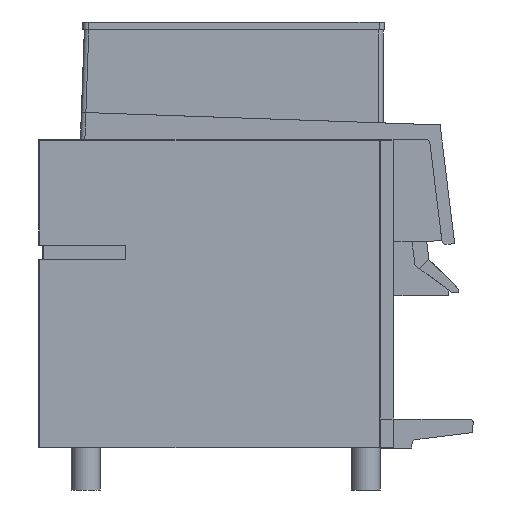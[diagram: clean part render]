
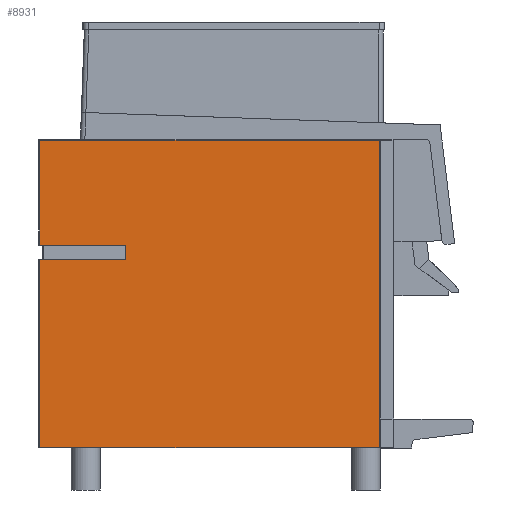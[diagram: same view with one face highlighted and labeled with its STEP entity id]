
A CAD part, left-side view. The second image highlights one B-rep face of the part: STEP entity #8931.
In plain terms, the highlighted planar face has unit normal (-1, 0, 0).
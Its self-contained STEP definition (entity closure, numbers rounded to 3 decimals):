
#467=LINE('',#11977,#1205);
#721=LINE('',#12623,#1459);
#722=LINE('',#12625,#1460);
#723=LINE('',#12627,#1461);
#724=LINE('',#12629,#1462);
#725=LINE('',#12631,#1463);
#726=LINE('',#12633,#1464);
#727=LINE('',#12635,#1465);
#728=LINE('',#12637,#1466);
#729=LINE('',#12639,#1467);
#1205=VECTOR('',#10018,1000.);
#1459=VECTOR('',#10544,1000.);
#1460=VECTOR('',#10545,1000.);
#1461=VECTOR('',#10546,1000.);
#1462=VECTOR('',#10547,1000.);
#1463=VECTOR('',#10548,1000.);
#1464=VECTOR('',#10549,1000.);
#1465=VECTOR('',#10550,1000.);
#1466=VECTOR('',#10551,1000.);
#1467=VECTOR('',#10552,1000.);
#2402=ORIENTED_EDGE('',*,*,#3882,.F.);
#2403=ORIENTED_EDGE('',*,*,#4212,.T.);
#2404=ORIENTED_EDGE('',*,*,#4213,.T.);
#2405=ORIENTED_EDGE('',*,*,#4214,.T.);
#2406=ORIENTED_EDGE('',*,*,#4215,.F.);
#2407=ORIENTED_EDGE('',*,*,#4216,.F.);
#2408=ORIENTED_EDGE('',*,*,#4217,.F.);
#2409=ORIENTED_EDGE('',*,*,#4218,.T.);
#2410=ORIENTED_EDGE('',*,*,#4219,.T.);
#2411=ORIENTED_EDGE('',*,*,#4220,.T.);
#3882=EDGE_CURVE('',#4818,#4819,#467,.T.);
#4212=EDGE_CURVE('',#4818,#5075,#721,.T.);
#4213=EDGE_CURVE('',#5075,#5076,#722,.F.);
#4214=EDGE_CURVE('',#5076,#5077,#723,.F.);
#4215=EDGE_CURVE('',#5078,#5077,#724,.T.);
#4216=EDGE_CURVE('',#5079,#5078,#725,.T.);
#4217=EDGE_CURVE('',#5080,#5079,#726,.T.);
#4218=EDGE_CURVE('',#5080,#5081,#727,.T.);
#4219=EDGE_CURVE('',#5081,#5082,#728,.T.);
#4220=EDGE_CURVE('',#5082,#4819,#729,.F.);
#4818=VERTEX_POINT('',#11976);
#4819=VERTEX_POINT('',#11978);
#5075=VERTEX_POINT('',#12624);
#5076=VERTEX_POINT('',#12626);
#5077=VERTEX_POINT('',#12628);
#5078=VERTEX_POINT('',#12630);
#5079=VERTEX_POINT('',#12632);
#5080=VERTEX_POINT('',#12634);
#5081=VERTEX_POINT('',#12636);
#5082=VERTEX_POINT('',#12638);
#5419=EDGE_LOOP('',(#2402,#2403,#2404,#2405,#2406,#2407,#2408,#2409,#2410,
#2411));
#5807=FACE_BOUND('',#5419,.T.);
#6167=PLANE('',#9409);
#8931=ADVANCED_FACE('',(#5807),#6167,.F.);
#9409=AXIS2_PLACEMENT_3D('',#12622,#10542,#10543);
#10018=DIRECTION('',(0.,1.,0.));
#10542=DIRECTION('',(1.,0.,0.));
#10543=DIRECTION('',(0.,1.,0.));
#10544=DIRECTION('',(0.,0.,1.));
#10545=DIRECTION('',(0.,-1.,0.));
#10546=DIRECTION('',(0.,0.,1.));
#10547=DIRECTION('',(0.,1.,0.));
#10548=DIRECTION('',(0.,1.,0.));
#10549=DIRECTION('',(0.,0.,1.));
#10550=DIRECTION('',(0.,1.,0.));
#10551=DIRECTION('',(0.,1.,0.));
#10552=DIRECTION('',(0.,0.,1.));
#11976=CARTESIAN_POINT('',(-284.,-470.,0.));
#11977=CARTESIAN_POINT('',(-284.,-490.,0.));
#11978=CARTESIAN_POINT('',(-284.,-1.2,0.));
#12622=CARTESIAN_POINT('',(-284.,0.,0.));
#12623=CARTESIAN_POINT('',(-284.,-470.,420.5));
#12624=CARTESIAN_POINT('',(-284.,-470.,424.8));
#12625=CARTESIAN_POINT('',(-284.,0.,424.8));
#12626=CARTESIAN_POINT('',(-284.,-1.2,424.8));
#12627=CARTESIAN_POINT('',(-284.,-1.2,0.));
#12628=CARTESIAN_POINT('',(-284.,-1.2,280.));
#12629=CARTESIAN_POINT('',(-284.,-5.,280.));
#12630=CARTESIAN_POINT('',(-284.,-5.133,280.));
#12631=CARTESIAN_POINT('',(-284.,-120.,280.));
#12632=CARTESIAN_POINT('',(-284.,-120.,280.));
#12633=CARTESIAN_POINT('',(-284.,-120.,260.));
#12634=CARTESIAN_POINT('',(-284.,-120.,260.));
#12635=CARTESIAN_POINT('',(-284.,-120.,260.));
#12636=CARTESIAN_POINT('',(-284.,-5.133,260.));
#12637=CARTESIAN_POINT('',(-284.,-5.,260.));
#12638=CARTESIAN_POINT('',(-284.,-1.2,260.));
#12639=CARTESIAN_POINT('',(-284.,-1.2,0.));
